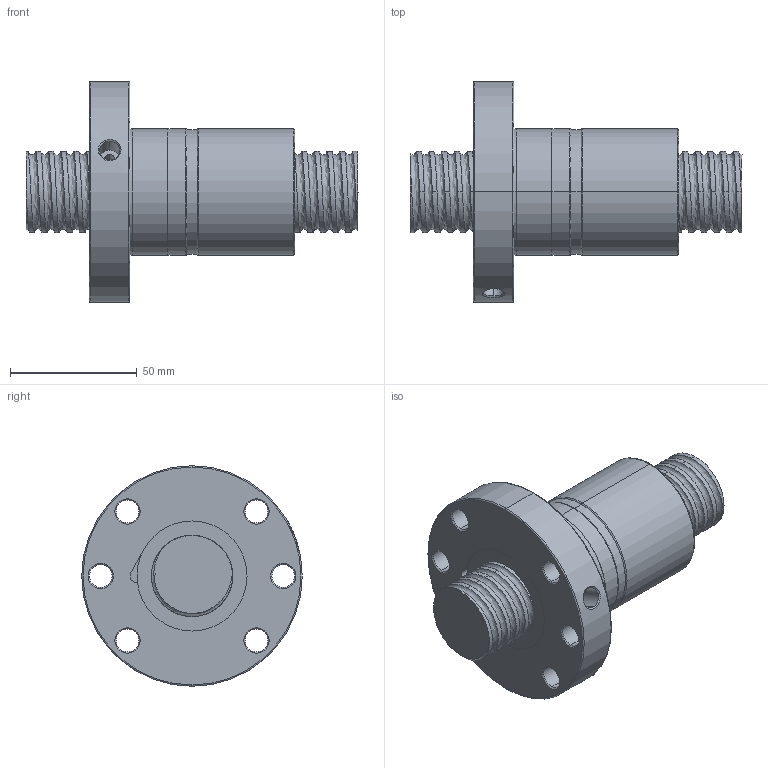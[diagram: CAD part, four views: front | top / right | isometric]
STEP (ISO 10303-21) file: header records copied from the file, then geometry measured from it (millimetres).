
FILE_DESCRIPTION (( 'STEP AP214' ), '1' );
FILE_NAME ('FDDC03205T4-C-A.STEP', '2010-07-06T03:19:32', ( 'XPAUTO' ), ( 'XPAUTO' ), 'SwSTEP 2.0', 'SolidWorks 2007', '' );
FILE_SCHEMA (( 'AUTOMOTIVE_DESIGN' ));
Length unit declared in the file: millimetre
Products named in the file (3): FDDC03205T4-C-A.sldasm-Part-2_預設; FDDC03205T4-C-A.sldasm-Part-1_預設; FDDC03205T4-C-A
Assembly tree (2 placements, depth 2):
  FDDC03205T4-C-A
    FDDC03205T4-C-A.sldasm-Part-1_預設
    FDDC03205T4-C-A.sldasm-Part-2_預設
Bounding box: 131 x 87 x 87 mm (x, y, z)
Volume: 246420.1 mm3; surface area: 53339.9 mm2
Topology: 2 solids, 2 shells, 152 faces, 386 edges, 243 vertices
Faces by surface type: cylinder 97, cone 24, plane 16, torus 10, bspline 5
Entity records: 46450 total; most frequent: CARTESIAN_POINT 42849, ORIENTED_EDGE 772, DIRECTION 682, EDGE_CURVE 386, AXIS2_PLACEMENT_3D 277, VERTEX_POINT 243, EDGE_LOOP 173, FACE_OUTER_BOUND 152
